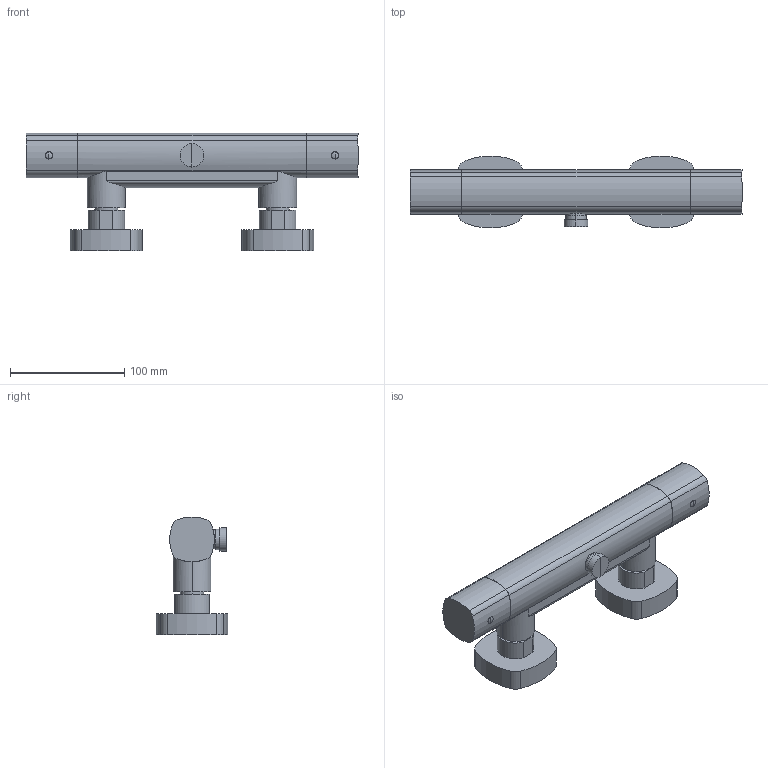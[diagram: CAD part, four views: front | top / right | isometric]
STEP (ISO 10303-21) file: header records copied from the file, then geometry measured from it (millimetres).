
FILE_DESCRIPTION(('FreeCAD Model'),'2;1');
FILE_NAME('Open CASCADE Shape Model','2024-11-19T14:20:22',('Author'),( ''),'Open CASCADE STEP processor 7.6','FreeCAD','Unknown');
FILE_SCHEMA(('AUTOMOTIVE_DESIGN { 1 0 10303 214 1 1 1 1 }'));
Length unit declared in the file: millimetre
Products named in the file (4): TopLevelAssembly; Obrót profilu; Obrót profilu001; Połączona geometria bryłowa
Assembly tree (3 placements, depth 2):
  TopLevelAssembly
    Obrót profilu
    Obrót profilu001
    Połączona geometria bryłowa
Bounding box: 290.6 x 62.89 x 103.04 mm (x, y, z)
Volume: 625646.9 mm3; surface area: 74048.5 mm2
Topology: 3 solids, 3 shells, 106 faces, 249 edges, 154 vertices
Faces by surface type: cylinder 70, plane 32, bspline 4
Entity records: 3309 total; most frequent: CARTESIAN_POINT 743, DIRECTION 569, ORIENTED_EDGE 490, EDGE_CURVE 245, AXIS2_PLACEMENT_3D 236, VERTEX_POINT 154, CIRCLE 130, FACE_BOUND 115
